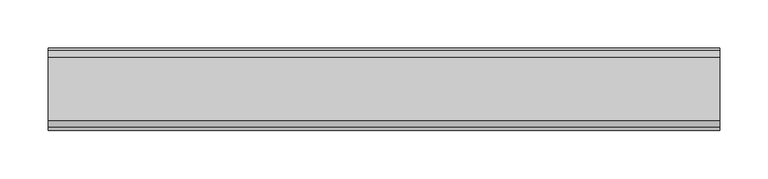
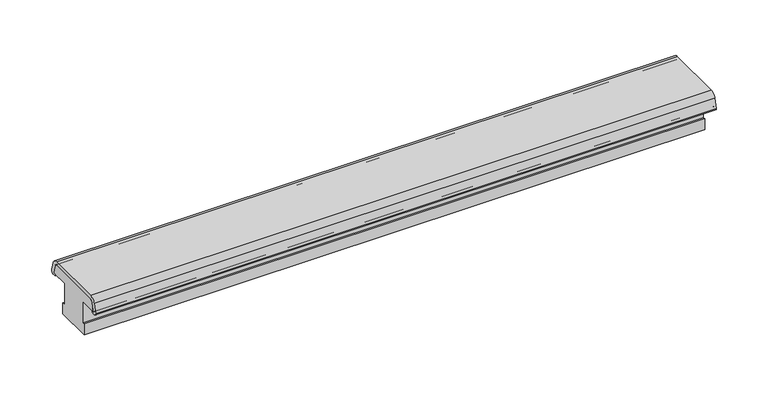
"""IFC4 building model written with IfcOpenShell, lengths in millimetres: proxy geometry, Weiku - Montante - Divisor 02.2.01.040 : Weiku - Montante - Divisor 02.2.01.040."""

import ifcopenshell
import ifcopenshell.guid

model = None  # the IFC model being written
_history = None  # IfcOwnerHistory: only IFC2X3 demands one
_inside = {}  # id of a spatial element -> (the spatial element, [elements in it])
_under = {}  # id of a project, library or spatial element -> (it, [spatial elements below it])
_declared = {}  # id of a project -> (the project, [libraries it declares])
_typed = {}  # id of a type object -> (the type object, [elements of that type])
_made_of = {}  # id of a material, layer set ... -> (it, [elements and type objects made of it])


def new_model(schema):
    """Start an empty IFC model of exactly this schema.

    Asked for "IFC4X3", IfcOpenShell would pick the latest addendum, in which some entities
    have other attributes; the version numbers below select the first issue.
    IFC2X3 requires an IfcOwnerHistory on every rooted entity: one is made here for all.
    """
    global model, _history
    if schema == "IFC4X3":
        model = ifcopenshell.file(schema_version=(4, 3, 0, 0))
    else:
        model = ifcopenshell.file(schema=schema)
    _inside.clear()
    _under.clear()
    _declared.clear()
    _typed.clear()
    _made_of.clear()
    _history = None
    if model.schema == "IFC2X3":
        org = make("IfcOrganization", Name="unknown")
        user = make(
            "IfcPersonAndOrganization",
            ThePerson=make("IfcPerson", FamilyName="unknown"),
            TheOrganization=org,
        )
        app = make(
            "IfcApplication",
            ApplicationDeveloper=org,
            Version="unknown",
            ApplicationFullName="unknown",
            ApplicationIdentifier="unknown",
        )
        _history = make(
            "IfcOwnerHistory",
            OwningUser=user,
            OwningApplication=app,
            ChangeAction="ADDED",
            CreationDate=0,
        )
    return model


def make(cls, **values):
    """One entity of the class cls with the attributes given. An attribute that is None is left unset."""
    return model.create_entity(
        cls, **{name: value for name, value in values.items() if value is not None}
    )


def rooted(cls, **values):
    """An entity with a GlobalId (a new one), such as an element, a storey or a relation."""
    return make(cls, GlobalId=ifcopenshell.guid.new(), OwnerHistory=_history, **values)


def si_unit(unit_type, name, prefix=None):
    """IfcSIUnit, for example si_unit("LENGTHUNIT", "METRE", prefix="MILLI")."""
    return make("IfcSIUnit", UnitType=unit_type, Prefix=prefix, Name=name)


def assignment(units):
    """IfcUnitAssignment: the units of a project."""
    return None if units is None else make("IfcUnitAssignment", Units=units)


def point(xyz):
    """IfcCartesianPoint."""
    return None if xyz is None else make("IfcCartesianPoint", Coordinates=xyz)


def direction(xyz):
    """IfcDirection."""
    return None if xyz is None else make("IfcDirection", DirectionRatios=xyz)


def frame(location, z_axis=None, x_axis=None):
    """IfcAxis2Placement3D, a coordinate frame: its origin and axes. An axis left out is left unset."""
    return make(
        "IfcAxis2Placement3D",
        Location=point(location),
        Axis=direction(z_axis),
        RefDirection=direction(x_axis),
    )


def frame_2d(location, x_axis=None):
    """IfcAxis2Placement2D, a coordinate frame in the plane: its origin and x axis."""
    return make(
        "IfcAxis2Placement2D", Location=point(location), RefDirection=direction(x_axis)
    )


def origin():
    """The frame at (0, 0, 0) with its axes left unset."""
    return frame((0.0, 0.0, 0.0))


def place(relative_to, where):
    """IfcLocalPlacement: puts the frame where relative to a parent placement (None: the world)."""
    return make(
        "IfcLocalPlacement", PlacementRelTo=relative_to, RelativePlacement=where
    )


def context(
    kind, dimensions, precision=None, world=None, true_north=None, identifier=None
):
    """IfcGeometricRepresentationContext, for example the 3D "Model" context."""
    return make(
        "IfcGeometricRepresentationContext",
        ContextIdentifier=identifier,
        ContextType=kind,
        CoordinateSpaceDimension=dimensions,
        Precision=precision,
        WorldCoordinateSystem=world,
        TrueNorth=true_north,
    )


def project(units=None, contexts=None):
    """IfcProject with its units and contexts."""
    return rooted(
        "IfcProject",
        Name="project",
        RepresentationContexts=contexts,
        UnitsInContext=assignment(units),
    )


def spatial(cls, under=None, at=None, **own):
    """A site, building, storey or space (cls), placed at a placement, below another one or the project."""
    s = rooted(cls, ObjectPlacement=at, **own)
    if under is not None:
        _under.setdefault(under.id(), (under, []))[1].append(s)
    return s


def polyline(points):
    """IfcPolyline through the points."""
    return make("IfcPolyline", Points=[point(p) for p in points])


def circle_curve(where, radius):
    """IfcCircle in the frame where."""
    return make("IfcCircle", Position=where, Radius=radius)


def trimmed(basis, trim1, trim2, sense, master):
    """IfcTrimmedCurve: the piece of a basis curve between two trims."""
    return make(
        "IfcTrimmedCurve",
        BasisCurve=basis,
        Trim1=trim1,
        Trim2=trim2,
        SenseAgreement=sense,
        MasterRepresentation=master,
    )


def segment(curve, same_sense, transition):
    """IfcCompositeCurveSegment."""
    return make(
        "IfcCompositeCurveSegment",
        Transition=transition,
        SameSense=same_sense,
        ParentCurve=curve,
    )


def composite_curve(segments, self_intersect=None):
    """IfcCompositeCurve: segments joined end to end."""
    return make("IfcCompositeCurve", Segments=segments, SelfIntersect=self_intersect)


def outline(outer, holes=None, kind="AREA"):
    """IfcArbitraryClosedProfileDef: a profile drawn as a closed curve; with holes, ...WithVoids."""
    if holes is None:
        return make("IfcArbitraryClosedProfileDef", ProfileType=kind, OuterCurve=outer)
    return make(
        "IfcArbitraryProfileDefWithVoids",
        ProfileType=kind,
        OuterCurve=outer,
        InnerCurves=holes,
    )


def extrude(swept, where, along, depth):
    """IfcExtrudedAreaSolid: the profile swept, set in the frame where, extruded along a direction by depth."""
    return make(
        "IfcExtrudedAreaSolid",
        SweptArea=swept,
        Position=where,
        ExtrudedDirection=direction(along),
        Depth=depth,
    )


def shape(context_of_items, identifier, shape_type, items):
    """IfcShapeRepresentation: the items that make up one representation, for example the "Body"."""
    return make(
        "IfcShapeRepresentation",
        ContextOfItems=context_of_items,
        RepresentationIdentifier=identifier,
        RepresentationType=shape_type,
        Items=items,
    )


def source(mapping_origin, context_of_items, identifier, shape_type, items):
    """IfcRepresentationMap: a shape defined once, which mapped items show again and again."""
    return make(
        "IfcRepresentationMap",
        MappingOrigin=mapping_origin,
        MappedRepresentation=shape(context_of_items, identifier, shape_type, items),
    )


def transform(
    local_origin,
    x_axis=None,
    y_axis=None,
    z_axis=None,
    scale=None,
    scale2=None,
    scale3=None,
    uniform=True,
):
    """IfcCartesianTransformationOperator3D, or its non-uniform kind. x_axis, y_axis, z_axis: its Axis1, 2, 3."""
    if uniform:
        return make(
            "IfcCartesianTransformationOperator3D",
            Axis1=direction(x_axis),
            Axis2=direction(y_axis),
            LocalOrigin=point(local_origin),
            Scale=scale,
            Axis3=direction(z_axis),
        )
    return make(
        "IfcCartesianTransformationOperator3DnonUniform",
        Axis1=direction(x_axis),
        Axis2=direction(y_axis),
        LocalOrigin=point(local_origin),
        Scale=scale,
        Axis3=direction(z_axis),
        Scale2=scale2,
        Scale3=scale3,
    )


def mapped(mapping_source, mapping_target):
    """IfcMappedItem: shows the shape of a source again, moved by a transform."""
    return make(
        "IfcMappedItem", MappingSource=mapping_source, MappingTarget=mapping_target
    )


def made_of(thing, what):
    """Note that an element or type object is made of a material, layer set ...; save() writes the relation."""
    if what is not None:
        _made_of.setdefault(what.id(), (what, []))[1].append(thing)
    return thing


def element(
    cls,
    number,
    at=None,
    inside=None,
    cuts=None,
    type_object=None,
    material=None,
    context=None,
    identifier="Body",
    shape_type=None,
    held_by="IfcProductDefinitionShape",
    body=None,
    shapes=None,
    **own,
):
    """One element of the class cls, such as IfcWall. Its Tag is "e" and its number.

    at: its placement. inside: the storey or other place that contains it. cuts: it is an
    opening in that element (IfcRelVoidsElement). A single representation is given by context,
    identifier, shape_type and body (its items); several are given by shapes. held_by: the class
    of the entity that holds the representations. save() writes the other relations.
    """
    e = rooted(cls, Tag="e%d" % number, ObjectPlacement=at, **own)
    if body is not None:
        shapes = [shape(context, identifier, shape_type, body)]
    if shapes is not None:
        e.Representation = make(held_by, Representations=shapes)
    if inside is not None:
        _inside.setdefault(inside.id(), (inside, []))[1].append(e)
    if cuts is not None:
        rooted(
            "IfcRelVoidsElement", RelatingBuildingElement=cuts, RelatedOpeningElement=e
        )
    if type_object is not None:
        _typed.setdefault(type_object.id(), (type_object, []))[1].append(e)
    return made_of(e, material)


def aggregate(whole, parts):
    """IfcRelAggregates: a whole, such as a stair, and the parts it consists of."""
    return rooted("IfcRelAggregates", RelatingObject=whole, RelatedObjects=parts)


def save(model, path):
    """Write the relations noted so far, then the file.

    IfcRelAggregates (storeys below a building ...), IfcRelContainedInSpatialStructure (elements
    in a storey), IfcRelDefinesByType, IfcRelAssociatesMaterial and IfcRelDeclares: one each for
    every whole, place, type object, material and project.
    """
    for whole, parts in _under.values():
        aggregate(whole, parts)
    for where, things in _inside.values():
        rooted(
            "IfcRelContainedInSpatialStructure",
            RelatedElements=things,
            RelatingStructure=where,
        )
    for kind, things in _typed.values():
        rooted("IfcRelDefinesByType", RelatedObjects=things, RelatingType=kind)
    for what, things in _made_of.values():
        rooted("IfcRelAssociatesMaterial", RelatedObjects=things, RelatingMaterial=what)
    for by, libraries in _declared.values():
        rooted("IfcRelDeclares", RelatingContext=by, RelatedDefinitions=libraries)
    model.write(path)


def generic_models_db91b3a5(model_context):
    return source(origin(), model_context, "Body", "SweptSolid", [
        extrude(outline(composite_curve([segment(trimmed(circle_curve(frame_2d((-33.0007245, 47.0)), 3.0), [point((-33.0007245, 50.0))], [point((-35.898502, 47.7764571))], True, "CARTESIAN"), True, "CONTINUOUS"), segment(polyline([(-35.898502, 47.7764571), (-38.4496907, 38.2552914)]), True, "CONTINUOUS"), segment(trimmed(circle_curve(frame_2d((-37.8701352, 38.1)), 0.6), [point((-38.4496907, 38.2552914))], [point((-37.8701352, 37.5))], True, "CARTESIAN"), True, "CONTINUOUS"), segment(polyline([(-37.8701352, 37.5), (-35.6935072, 37.5), (-35.6935072, 35.5), (-39.6935072, 35.5)]), True, "CONTINUOUS"), segment(trimmed(circle_curve(frame_2d((-39.6935072, 38.5)), 3.0), [point((-39.6935072, 35.5))], [point((-42.6544744, 38.0176381))], False, "CARTESIAN"), True, "CONTINUOUS"), segment(polyline([(-42.6544744, 38.0176381), (-39.7622053, 48.8117333)]), True, "CONTINUOUS"), segment(trimmed(circle_curve(frame_2d((-33.0007245, 47.0)), 7.0), [point((-39.7622053, 48.8117333))], [point((-33.0007245, 54.0))], False, "CARTESIAN"), True, "CONTINUOUS"), segment(polyline([(-33.0007245, 54.0), (33.0007245, 54.0)]), True, "CONTINUOUS"), segment(trimmed(circle_curve(frame_2d((33.0007245, 47.0)), 7.0), [point((33.0007245, 54.0))], [point((39.7622053, 48.8117333))], False, "CARTESIAN"), True, "CONTINUOUS"), segment(polyline([(39.7622053, 48.8117333), (42.3171749, 39.2764571)]), True, "CONTINUOUS"), segment(trimmed(circle_curve(frame_2d((39.4193974, 38.5)), 3.0), [point((42.3171749, 39.2764571))], [point((39.4193974, 35.5))], False, "CARTESIAN"), True, "CONTINUOUS"), segment(polyline([(39.4193974, 35.5), (35.6935072, 35.5), (35.6935072, 37.5), (37.8701352, 37.5)]), True, "CONTINUOUS"), segment(trimmed(circle_curve(frame_2d((37.8701352, 38.1)), 0.6), [point((37.8701352, 37.5))], [point((38.4496907, 38.2552914))], True, "CARTESIAN"), True, "CONTINUOUS"), segment(polyline([(38.4496907, 38.2552914), (35.898502, 47.7764571)]), True, "CONTINUOUS"), segment(trimmed(circle_curve(frame_2d((33.0007245, 47.0)), 3.0), [point((35.898502, 47.7764571))], [point((33.0007245, 50.0))], True, "CARTESIAN"), True, "CONTINUOUS"), segment(polyline([(33.0007245, 50.0), (-33.0007245, 50.0)]), True, "CONTINUOUS")], self_intersect=False)), frame((-346.75, 0.0, 0.0), z_axis=(1.0, 0.0, 0.0), x_axis=(0.0, 1.0, 0.0)), (0.0, 0.0, 1.0), 693.5),
        extrude(outline(composite_curve([segment(polyline([(-33.0007245, 50.0), (33.0007245, 50.0)]), True, "CONTINUOUS"), segment(trimmed(circle_curve(frame_2d((33.0007245, 47.0)), 3.0), [point((33.0007245, 50.0))], [point((35.898502, 47.7764571))], False, "CARTESIAN"), True, "CONTINUOUS"), segment(polyline([(35.898502, 47.7764571), (38.4496907, 38.2552914)]), True, "CONTINUOUS"), segment(trimmed(circle_curve(frame_2d((37.8701352, 38.1)), 0.6), [point((38.4496907, 38.2552914))], [point((37.8701352, 37.5))], False, "CARTESIAN"), True, "CONTINUOUS"), segment(polyline([(37.8701352, 37.5), (17.5004577, 37.5), (17.5004577, 12.168694), (20.5, 12.972419), (20.5, 0.0), (-20.5, 0.0), (-20.5, 12.972419), (-17.5004577, 12.168694), (-17.5004577, 37.5), (-37.8701352, 37.5)]), True, "CONTINUOUS"), segment(trimmed(circle_curve(frame_2d((-37.8701352, 38.1)), 0.6), [point((-37.8701352, 37.5))], [point((-38.4496907, 38.2552914))], False, "CARTESIAN"), True, "CONTINUOUS"), segment(polyline([(-38.4496907, 38.2552914), (-35.898502, 47.7764571)]), True, "CONTINUOUS"), segment(trimmed(circle_curve(frame_2d((-33.0007245, 47.0)), 3.0), [point((-35.898502, 47.7764571))], [point((-33.0007245, 50.0))], False, "CARTESIAN"), True, "CONTINUOUS")], self_intersect=False)), frame((-346.75, 0.0, 0.0), z_axis=(1.0, 0.0, 0.0), x_axis=(0.0, 1.0, 0.0)), (0.0, 0.0, 1.0), 693.5),
    ])


if __name__ == "__main__":
    model = new_model("IFC4")
    model_context = context("Model", 3, world=origin())
    ifc_project = project(units=[si_unit("LENGTHUNIT", "METRE", prefix="MILLI")], contexts=[model_context])
    site = spatial("IfcSite", under=ifc_project)
    building = spatial("IfcBuilding", under=site)
    placement = place(None, origin())
    generic_models_shape = generic_models_db91b3a5(model_context)
    element("IfcBuildingElementProxy", 1, Name="Weiku - Montante - Divisor 02.2.01.040 : Weiku - Montante - Divisor 02.2.01.040", ObjectType="Weiku - Montante - Divisor 02.2.01.040 : Weiku - Montante - Divisor 02.2.01.040", at=placement, inside=building, context=model_context, shape_type="MappedRepresentation", body=[
        mapped(generic_models_shape, transform((0.0, 0.0, 0.0), x_axis=(1.0, 0.0, 0.0), y_axis=(0.0, 1.0, 0.0), z_axis=(0.0, 0.0, 1.0))),
    ])
    save(model, "model.ifc")
